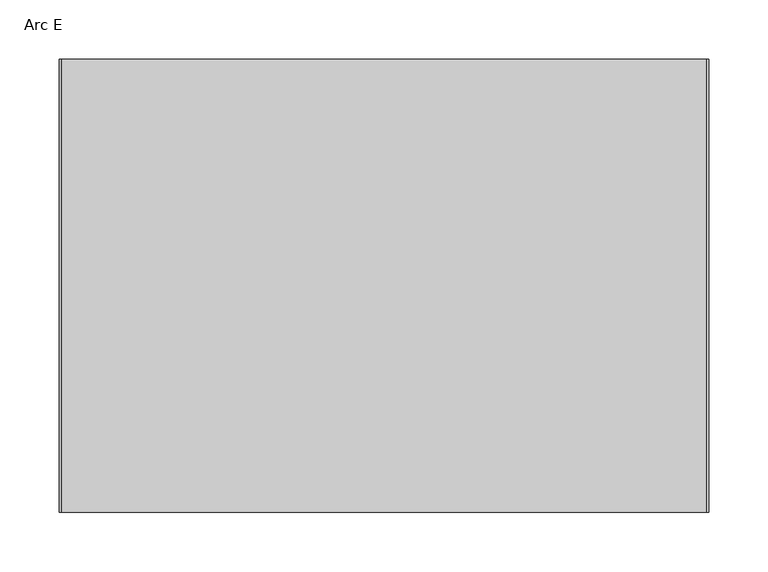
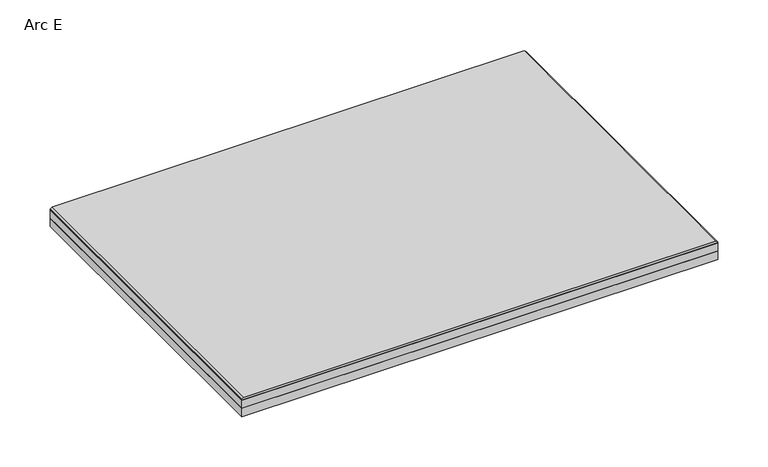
"""IFC4 building model written with IfcOpenShell, lengths in millimetres: proxy geometry, FilzFelt_Arc : Arc E."""

from ifc_helpers import new_model, si_unit, frame, origin, origin_with_axes, place, context, project, spatial, polyline, outline, extrude, source, transform, mapped, element, save


def arc_e_2cae81dc(model_context):
    return source(origin(), model_context, "Body", "SweptSolid", [
        extrude(outline(polyline([(273.05, 190.5), (273.05, -190.5), (-273.05, -190.5), (-273.05, 190.5), (273.05, 190.5)])), origin_with_axes(), (0.0, 0.0, 1.0), 10.0),
        extrude(outline(polyline([(273.05, 190.5), (273.05, -190.5), (-273.05, -190.5), (-273.05, 190.5), (273.05, 190.5)])), frame((0.0, 0.0, 10.0), z_axis=(0.0, 0.0, 1.0), x_axis=(1.0, 0.0, 0.0)), (0.0, 0.0, 1.0), 10.0),
        extrude(outline(polyline([(20.0, -273.05), (20.0, 273.05), (21.0, 273.05), (23.0, 271.05), (23.0, -271.05), (21.0, -273.05), (20.0, -273.05)])), frame((0.0, -190.5, 0.0), z_axis=(0.0, 1.0, 0.0), x_axis=(0.0, 0.0, 1.0)), (0.0, 0.0, 1.0), 381.0),
    ])


if __name__ == "__main__":
    model = new_model("IFC4")
    model_context = context("Model", 3, world=origin())
    ifc_project = project(units=[si_unit("LENGTHUNIT", "METRE", prefix="MILLI")], contexts=[model_context])
    site = spatial("IfcSite", under=ifc_project)
    building = spatial("IfcBuilding", under=site)
    placement = place(None, origin())
    arc_e_shape = arc_e_2cae81dc(model_context)
    element("IfcBuildingElementProxy", 1, Name="FilzFelt_Arc : Arc E", ObjectType="FilzFelt_Arc : Arc E", at=placement, inside=building, context=model_context, shape_type="MappedRepresentation", body=[
        mapped(arc_e_shape, transform((0.0, 0.0, 0.0), x_axis=(1.0, 0.0, 0.0), y_axis=(0.0, 1.0, 0.0), z_axis=(0.0, 0.0, 1.0))),
    ])
    save(model, "model.ifc")
